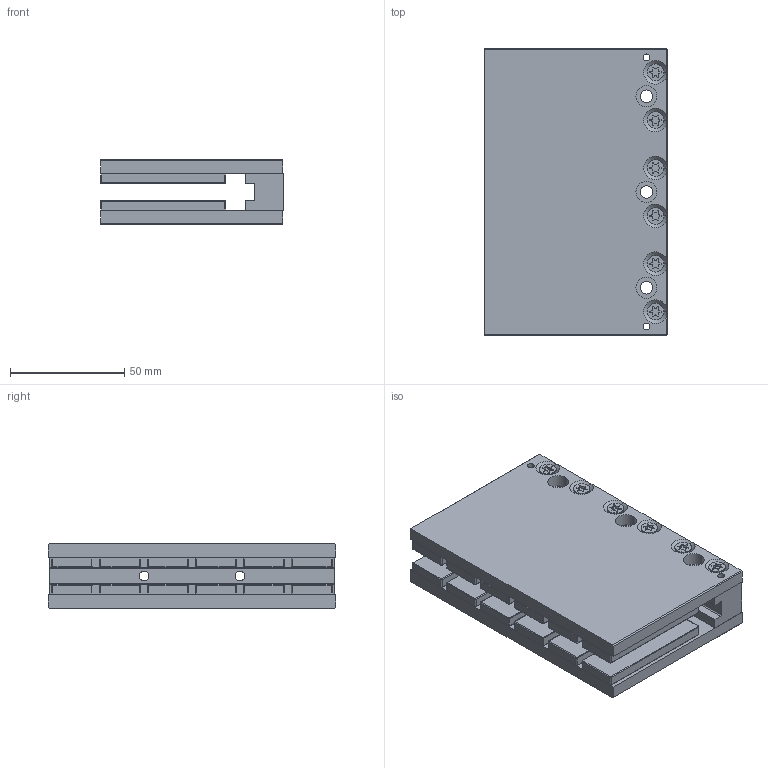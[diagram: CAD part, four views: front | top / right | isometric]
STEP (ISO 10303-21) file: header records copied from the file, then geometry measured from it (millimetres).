
FILE_DESCRIPTION (( 'STEP AP203' ), '1' );
FILE_NAME ('MY91-126 assembly 3D.STEP', '2022-10-28T07:06:27', ( '' ), ( '' ), 'SwSTEP 2.0', 'SolidWorks 2021', '' );
FILE_SCHEMA (( 'CONFIG_CONTROL_DESIGN' ));
Length unit declared in the file: millimetre
Products named in the file (1): MY91-126 assembly 3D
Bounding box: 80.2 x 125.92 x 28.4 mm (x, y, z)
Volume: 197627.4 mm3; surface area: 91300.3 mm2
Topology: 27 solids, 27 shells, 902 faces, 2244 edges, 1396 vertices
Faces by surface type: cylinder 444, plane 278, torus 96, cone 84
Entity records: 27061 total; most frequent: DIRECTION 5070, CARTESIAN_POINT 4615, ORIENTED_EDGE 4488, EDGE_CURVE 2244, AXIS2_PLACEMENT_3D 1947, VERTEX_POINT 1396, LINE 1176, VECTOR 1176
